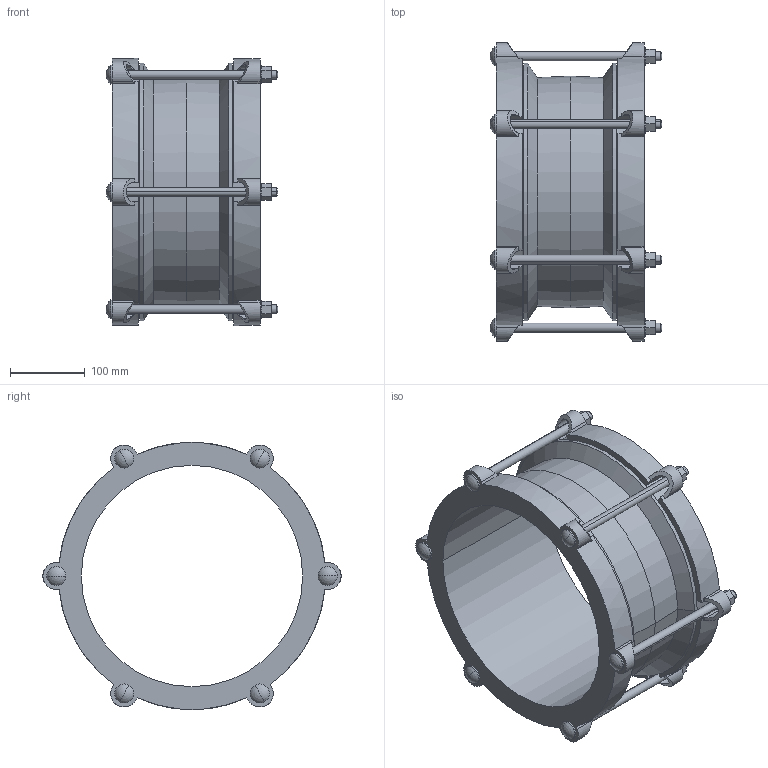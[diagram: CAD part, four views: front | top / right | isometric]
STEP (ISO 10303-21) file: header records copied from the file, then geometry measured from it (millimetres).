
FILE_DESCRIPTION((''),'2;1');
FILE_NAME('BIM_12393_12','2018-09-07T',('MReader'),(''),'CREO PARAMETRIC BY PTC INC, 2016130','CREO PARAMETRIC BY PTC INC, 2016130','');
FILE_SCHEMA(('CONFIG_CONTROL_DESIGN'));
Length unit declared in the file: millimetre
Products named in the file (1): BIM_12393_12
Bounding box: 230.33 x 399.5 x 358 mm (x, y, z)
Volume: 3593076.7 mm3; surface area: 599236.2 mm2
Topology: 1 solids, 1 shells, 286 faces, 776 edges, 494 vertices
Faces by surface type: plane 148, cylinder 94, sphere 24, cone 20
Entity records: 9280 total; most frequent: CARTESIAN_POINT 2024, DIRECTION 1518, ORIENTED_EDGE 1504, EDGE_CURVE 752, AXIS2_PLACEMENT_3D 552, VERTEX_POINT 494, VECTOR 414, LINE 414
